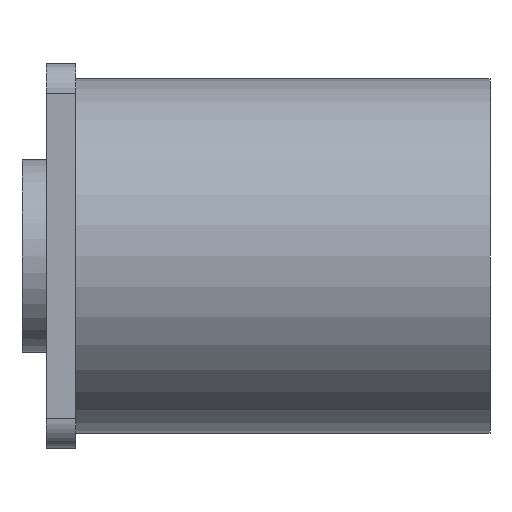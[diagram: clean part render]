
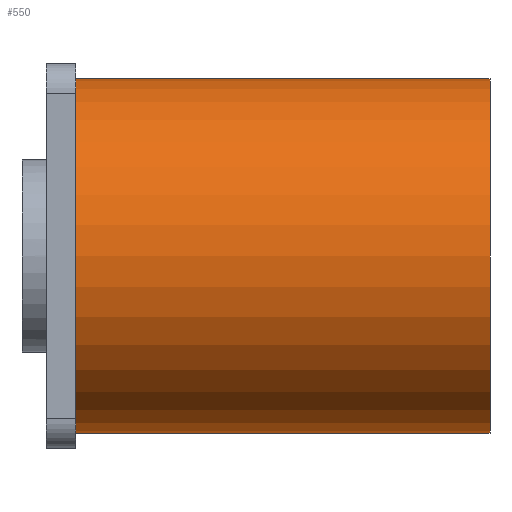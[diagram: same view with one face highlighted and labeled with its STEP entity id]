
A CAD part, front view. The second image highlights one B-rep face of the part: STEP entity #550.
In plain terms, the highlighted cylindrical face has radius 24 mm (diameter 48 mm), a full revolution.
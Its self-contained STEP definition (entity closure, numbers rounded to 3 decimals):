
#550=ADVANCED_FACE('',(#736,#737),#681,.T.);
#681=CYLINDRICAL_SURFACE('',#2383,24.);
#736=FACE_BOUND('',#800,.T.);
#737=FACE_BOUND('',#801,.T.);
#800=EDGE_LOOP('',(#972));
#801=EDGE_LOOP('',(#973));
#972=ORIENTED_EDGE('',*,*,#1912,.T.);
#973=ORIENTED_EDGE('',*,*,#1913,.T.);
#1676=VERTEX_POINT('',#3486);
#1677=VERTEX_POINT('',#3488);
#1912=EDGE_CURVE('',#1676,#1676,#2264,.T.);
#1913=EDGE_CURVE('',#1677,#1677,#2265,.T.);
#2264=CIRCLE('',#2381,24.);
#2265=CIRCLE('',#2382,24.);
#2381=AXIS2_PLACEMENT_3D('',#3485,#2718,#2719);
#2382=AXIS2_PLACEMENT_3D('',#3487,#2720,#2721);
#2383=AXIS2_PLACEMENT_3D('',#3489,#2722,#2723);
#2718=DIRECTION('',(-1.,0.,0.));
#2719=DIRECTION('',(0.,0.,1.));
#2720=DIRECTION('',(1.,0.,0.));
#2721=DIRECTION('',(0.,0.,1.));
#2722=DIRECTION('',(-1.,0.,0.));
#2723=DIRECTION('',(0.,0.,1.));
#3485=CARTESIAN_POINT('',(-33.136,90.58,22.659));
#3486=CARTESIAN_POINT('',(-33.136,90.58,46.659));
#3487=CARTESIAN_POINT('',(-89.136,90.58,22.659));
#3488=CARTESIAN_POINT('',(-89.136,90.58,46.659));
#3489=CARTESIAN_POINT('',(-96.456,90.58,22.659));
